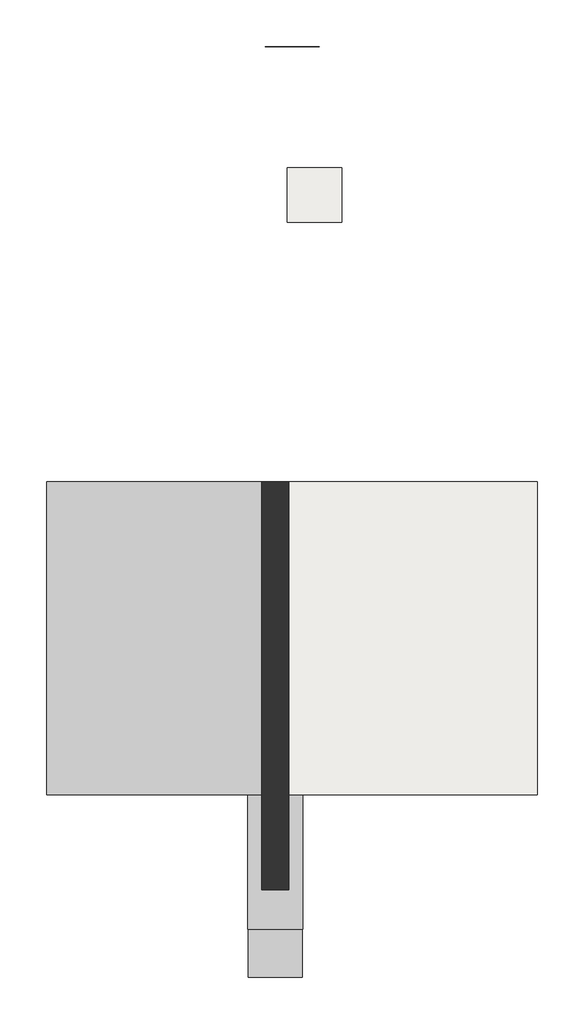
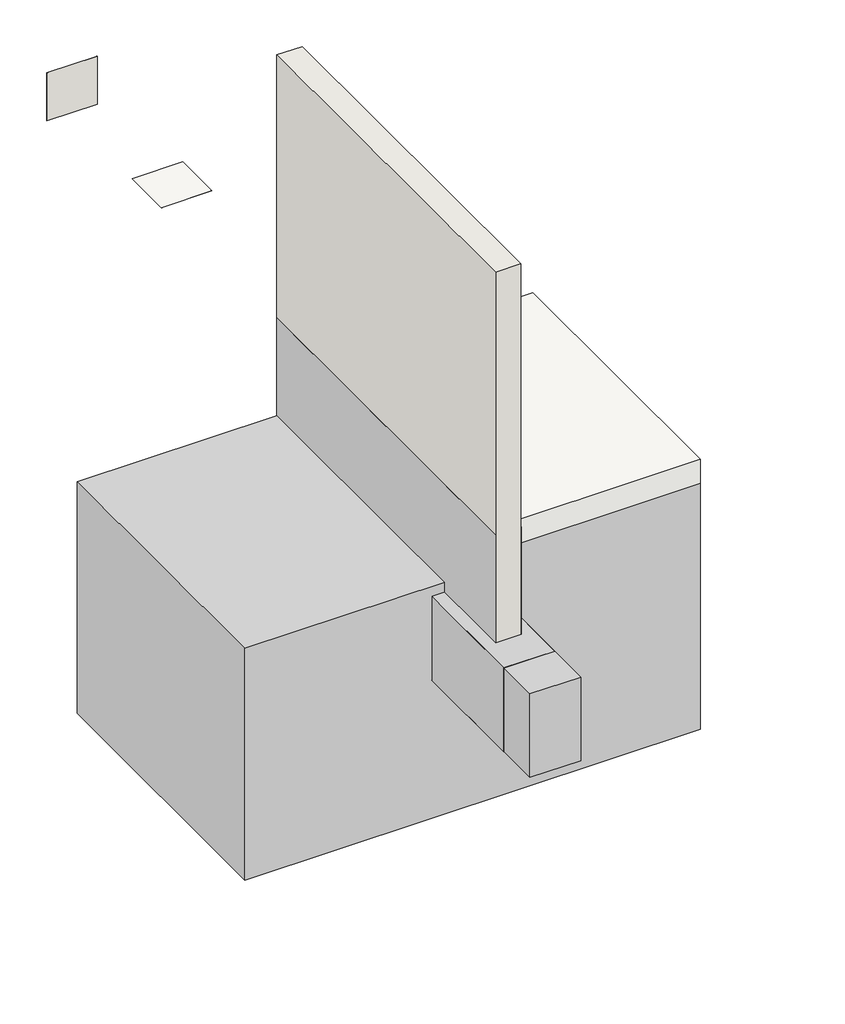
# One storey: 2 slabs, 2 walls, 1 proxy.
"""IFC4 building model written with IfcOpenShell, lengths in millimetres."""

import ifcopenshell
import ifcopenshell.guid

model = None  # the IFC model being written
_history = None  # IfcOwnerHistory: only IFC2X3 demands one
_inside = {}  # id of a spatial element -> (the spatial element, [elements in it])
_under = {}  # id of a project, library or spatial element -> (it, [spatial elements below it])
_declared = {}  # id of a project -> (the project, [libraries it declares])
_typed = {}  # id of a type object -> (the type object, [elements of that type])
_made_of = {}  # id of a material, layer set ... -> (it, [elements and type objects made of it])


def new_model(schema):
    """Start an empty IFC model of exactly this schema.

    Asked for "IFC4X3", IfcOpenShell would pick the latest addendum, in which some entities
    have other attributes; the version numbers below select the first issue.
    IFC2X3 requires an IfcOwnerHistory on every rooted entity: one is made here for all.
    """
    global model, _history
    if schema == "IFC4X3":
        model = ifcopenshell.file(schema_version=(4, 3, 0, 0))
    else:
        model = ifcopenshell.file(schema=schema)
    _inside.clear()
    _under.clear()
    _declared.clear()
    _typed.clear()
    _made_of.clear()
    _history = None
    if model.schema == "IFC2X3":
        org = make("IfcOrganization", Name="unknown")
        user = make(
            "IfcPersonAndOrganization",
            ThePerson=make("IfcPerson", FamilyName="unknown"),
            TheOrganization=org,
        )
        app = make(
            "IfcApplication",
            ApplicationDeveloper=org,
            Version="unknown",
            ApplicationFullName="unknown",
            ApplicationIdentifier="unknown",
        )
        _history = make(
            "IfcOwnerHistory",
            OwningUser=user,
            OwningApplication=app,
            ChangeAction="ADDED",
            CreationDate=0,
        )
    return model


def make(cls, **values):
    """One entity of the class cls with the attributes given. An attribute that is None is left unset."""
    return model.create_entity(
        cls, **{name: value for name, value in values.items() if value is not None}
    )


def rooted(cls, **values):
    """An entity with a GlobalId (a new one), such as an element, a storey or a relation."""
    return make(cls, GlobalId=ifcopenshell.guid.new(), OwnerHistory=_history, **values)


def si_unit(unit_type, name, prefix=None):
    """IfcSIUnit, for example si_unit("LENGTHUNIT", "METRE", prefix="MILLI")."""
    return make("IfcSIUnit", UnitType=unit_type, Prefix=prefix, Name=name)


def assignment(units):
    """IfcUnitAssignment: the units of a project."""
    return None if units is None else make("IfcUnitAssignment", Units=units)


def point(xyz):
    """IfcCartesianPoint."""
    return None if xyz is None else make("IfcCartesianPoint", Coordinates=xyz)


def direction(xyz):
    """IfcDirection."""
    return None if xyz is None else make("IfcDirection", DirectionRatios=xyz)


def frame(location, z_axis=None, x_axis=None):
    """IfcAxis2Placement3D, a coordinate frame: its origin and axes. An axis left out is left unset."""
    return make(
        "IfcAxis2Placement3D",
        Location=point(location),
        Axis=direction(z_axis),
        RefDirection=direction(x_axis),
    )


def origin():
    """The frame at (0, 0, 0) with its axes left unset."""
    return frame((0.0, 0.0, 0.0))


def place(relative_to, where):
    """IfcLocalPlacement: puts the frame where relative to a parent placement (None: the world)."""
    return make(
        "IfcLocalPlacement", PlacementRelTo=relative_to, RelativePlacement=where
    )


def context(
    kind, dimensions, precision=None, world=None, true_north=None, identifier=None
):
    """IfcGeometricRepresentationContext, for example the 3D "Model" context."""
    return make(
        "IfcGeometricRepresentationContext",
        ContextIdentifier=identifier,
        ContextType=kind,
        CoordinateSpaceDimension=dimensions,
        Precision=precision,
        WorldCoordinateSystem=world,
        TrueNorth=true_north,
    )


def project(units=None, contexts=None):
    """IfcProject with its units and contexts."""
    return rooted(
        "IfcProject",
        Name="project",
        RepresentationContexts=contexts,
        UnitsInContext=assignment(units),
    )


def spatial(cls, under=None, at=None, **own):
    """A site, building, storey or space (cls), placed at a placement, below another one or the project."""
    s = rooted(cls, ObjectPlacement=at, **own)
    if under is not None:
        _under.setdefault(under.id(), (under, []))[1].append(s)
    return s


def polyline(points):
    """IfcPolyline through the points."""
    return make("IfcPolyline", Points=[point(p) for p in points])


def outline(outer, holes=None, kind="AREA"):
    """IfcArbitraryClosedProfileDef: a profile drawn as a closed curve; with holes, ...WithVoids."""
    if holes is None:
        return make("IfcArbitraryClosedProfileDef", ProfileType=kind, OuterCurve=outer)
    return make(
        "IfcArbitraryProfileDefWithVoids",
        ProfileType=kind,
        OuterCurve=outer,
        InnerCurves=holes,
    )


def extrude(swept, where, along, depth):
    """IfcExtrudedAreaSolid: the profile swept, set in the frame where, extruded along a direction by depth."""
    return make(
        "IfcExtrudedAreaSolid",
        SweptArea=swept,
        Position=where,
        ExtrudedDirection=direction(along),
        Depth=depth,
    )


def shape(context_of_items, identifier, shape_type, items):
    """IfcShapeRepresentation: the items that make up one representation, for example the "Body"."""
    return make(
        "IfcShapeRepresentation",
        ContextOfItems=context_of_items,
        RepresentationIdentifier=identifier,
        RepresentationType=shape_type,
        Items=items,
    )


def source(mapping_origin, context_of_items, identifier, shape_type, items):
    """IfcRepresentationMap: a shape defined once, which mapped items show again and again."""
    return make(
        "IfcRepresentationMap",
        MappingOrigin=mapping_origin,
        MappedRepresentation=shape(context_of_items, identifier, shape_type, items),
    )


def transform(
    local_origin,
    x_axis=None,
    y_axis=None,
    z_axis=None,
    scale=None,
    scale2=None,
    scale3=None,
    uniform=True,
):
    """IfcCartesianTransformationOperator3D, or its non-uniform kind. x_axis, y_axis, z_axis: its Axis1, 2, 3."""
    if uniform:
        return make(
            "IfcCartesianTransformationOperator3D",
            Axis1=direction(x_axis),
            Axis2=direction(y_axis),
            LocalOrigin=point(local_origin),
            Scale=scale,
            Axis3=direction(z_axis),
        )
    return make(
        "IfcCartesianTransformationOperator3DnonUniform",
        Axis1=direction(x_axis),
        Axis2=direction(y_axis),
        LocalOrigin=point(local_origin),
        Scale=scale,
        Axis3=direction(z_axis),
        Scale2=scale2,
        Scale3=scale3,
    )


def mapped(mapping_source, mapping_target):
    """IfcMappedItem: shows the shape of a source again, moved by a transform."""
    return make(
        "IfcMappedItem", MappingSource=mapping_source, MappingTarget=mapping_target
    )


def made_of(thing, what):
    """Note that an element or type object is made of a material, layer set ...; save() writes the relation."""
    if what is not None:
        _made_of.setdefault(what.id(), (what, []))[1].append(thing)
    return thing


def element(
    cls,
    number,
    at=None,
    inside=None,
    cuts=None,
    type_object=None,
    material=None,
    context=None,
    identifier="Body",
    shape_type=None,
    held_by="IfcProductDefinitionShape",
    body=None,
    shapes=None,
    **own,
):
    """One element of the class cls, such as IfcWall. Its Tag is "e" and its number.

    at: its placement. inside: the storey or other place that contains it. cuts: it is an
    opening in that element (IfcRelVoidsElement). A single representation is given by context,
    identifier, shape_type and body (its items); several are given by shapes. held_by: the class
    of the entity that holds the representations. save() writes the other relations.
    """
    e = rooted(cls, Tag="e%d" % number, ObjectPlacement=at, **own)
    if body is not None:
        shapes = [shape(context, identifier, shape_type, body)]
    if shapes is not None:
        e.Representation = make(held_by, Representations=shapes)
    if inside is not None:
        _inside.setdefault(inside.id(), (inside, []))[1].append(e)
    if cuts is not None:
        rooted(
            "IfcRelVoidsElement", RelatingBuildingElement=cuts, RelatedOpeningElement=e
        )
    if type_object is not None:
        _typed.setdefault(type_object.id(), (type_object, []))[1].append(e)
    return made_of(e, material)


def aggregate(whole, parts):
    """IfcRelAggregates: a whole, such as a stair, and the parts it consists of."""
    return rooted("IfcRelAggregates", RelatingObject=whole, RelatedObjects=parts)


def save(model, path):
    """Write the relations noted so far, then the file.

    IfcRelAggregates (storeys below a building ...), IfcRelContainedInSpatialStructure (elements
    in a storey), IfcRelDefinesByType, IfcRelAssociatesMaterial and IfcRelDeclares: one each for
    every whole, place, type object, material and project.
    """
    for whole, parts in _under.values():
        aggregate(whole, parts)
    for where, things in _inside.values():
        rooted(
            "IfcRelContainedInSpatialStructure",
            RelatedElements=things,
            RelatingStructure=where,
        )
    for kind, things in _typed.values():
        rooted("IfcRelDefinesByType", RelatedObjects=things, RelatingType=kind)
    for what, things in _made_of.values():
        rooted("IfcRelAssociatesMaterial", RelatedObjects=things, RelatingMaterial=what)
    for by, libraries in _declared.values():
        rooted("IfcRelDeclares", RelatingContext=by, RelatedDefinitions=libraries)
    model.write(path)


def generic_models_f47f14e8(model_context):
    return source(origin(), model_context, "Body", "SweptSolid", [
        extrude(outline(polyline([(-326.9704105, 145.8700195), (-325.9704105, 145.8700195), (-325.9704105, -2854.1299805), (-326.9704105, -2854.1299805), (-326.9704105, 145.8700195)])), frame((0.0, 0.0, -603.3780272), z_axis=(0.0, 0.0, 1.0), x_axis=(1.0, 0.0, 0.0)), (0.0, 0.0, 1.0), 900.8542292),
        extrude(outline(polyline([(-527.9704105, 145.8700195), (-526.9704105, 145.8700195), (-526.9704105, -2854.1299805), (-527.9704105, -2854.1299805), (-527.9704105, 145.8700195)])), frame((0.0, 0.0, -603.3780272), z_axis=(0.0, 0.0, 1.0), x_axis=(1.0, 0.0, 0.0)), (0.0, 0.0, 1.0), 900.8542292),
        extrude(outline(polyline([(-603.3780272, -627.9704105), (-1305.3780272, -627.9704105), (-1305.3780272, -225.9704105), (-603.3780272, -225.9704105), (-603.3780272, -627.9704105)]), holes=[polyline([(-604.3780272, -626.9704105), (-604.3780272, -226.9704105), (-1304.3780272, -226.9704105), (-1304.3780272, -626.9704105), (-604.3780272, -626.9704105)])]), frame((0.0, -3142.3995487, 0.0), z_axis=(0.0, 1.0, 0.0), x_axis=(0.0, 0.0, 1.0)), (0.0, 0.0, 1.0), 3038.2695682),
        extrude(outline(polyline([(-604.3780272, -326.9704105), (-604.3780272, -226.9704105), (-1304.3780272, -226.9704105), (-1304.3780272, -626.9704105), (-604.3780272, -626.9704105), (-604.3780272, -526.9704105), (-520.527667, -526.9704105), (-520.527667, -2108.6071009), (-2459.4927087, -2108.6071009), (-2459.4927087, 1498.0295895), (-402.523798, 1498.0295895), (-402.523798, -326.9704105), (-604.3780272, -326.9704105)])), frame((0.0, -2154.1299805, 0.0), z_axis=(0.0, 1.0, 0.0), x_axis=(0.0, 0.0, 1.0)), (0.0, 0.0, 1.0), 2300.0),
        extrude(outline(polyline([(-626.9704105, 145.8700195), (-226.9704105, 145.8700195), (-226.9704105, -3498.0442835), (-626.9704105, -3498.0442835), (-626.9704105, 145.8700195)])), frame((0.0, 0.0, -1304.3780272), z_axis=(0.0, 0.0, 1.0), x_axis=(1.0, 0.0, 0.0)), (0.0, 0.0, 1.0), 700.0),
    ])


model = new_model("IFC4")

# Units and contexts
model_context = context("Model", 3, world=origin())
ifc_project = project(units=[si_unit("LENGTHUNIT", "METRE", prefix="MILLI")], contexts=[model_context])

# Site, building, storey
site = spatial("IfcSite", under=ifc_project)
building = spatial("IfcBuilding", under=site)
storey = spatial("IfcBuildingStorey", under=building, Name="ARQ Térreo", Elevation=-2.523798)

# Proxy
placement = place(None, origin())
generic_models_shape = generic_models_f47f14e8(model_context)
element("IfcBuildingElementProxy", 1, Name="IMPER:IMPER:433934 : IMPER:IMPER:433934", ObjectType="IMPER:IMPER:433934 : IMPER:IMPER:433934", at=placement, inside=storey, context=model_context, shape_type="MappedRepresentation", body=[
    mapped(generic_models_shape, transform((0.0, 0.0, 0.0), x_axis=(1.0, 0.0, 0.0), y_axis=(0.0, 1.0, 0.0), z_axis=(0.0, 0.0, 1.0))),
])

# Slabs
element("IfcSlab", 2, ObjectType="IMPH_VIABIT", at=placement, inside=storey, context=model_context, shape_type="SweptSolid", body=[
    extrude(outline(polyline([(-339.4717852, 2454.1249925), (60.5282148, 2454.1249925), (60.5282148, 2054.1249925), (-339.4717852, 2054.1249925), (-339.4717852, 2454.1249925)])), frame((0.0, 0.0, -3.523798), z_axis=(0.0, 0.0, 1.0), x_axis=(1.0, 0.0, 0.0)), (0.0, 0.0, 1.0), 1.0),
])
element("IfcSlab", 3, ObjectType="Piso:LAJE CONCRETO", at=placement, inside=storey, context=model_context, shape_type="SweptSolid", body=[
    extrude(outline(polyline([(-501.9704105, 145.8700195), (1498.0295895, 145.8700195), (1498.0295895, -2154.1299805), (-501.9704105, -2154.1299805), (-501.9704105, 145.8700195)])), frame((0.0, 0.0, -402.523798), z_axis=(0.0, 0.0, 1.0), x_axis=(1.0, 0.0, 0.0)), (0.0, 0.0, 1.0), 200.0),
])

# Walls
element("IfcWall", 4, ObjectType="IMPV_VIABIT", at=placement, inside=storey, context=model_context, shape_type="SweptSolid", body=[
    extrude(outline(polyline([(-101.9704105, 3345.3700195), (-501.9704105, 3345.3700195), (-501.9704105, 3346.3700195), (-101.9704105, 3346.3700195), (-101.9704105, 3345.3700195)])), frame((0.0, 0.0, -2.523798), z_axis=(0.0, 0.0, 1.0), x_axis=(1.0, 0.0, 0.0)), (0.0, 0.0, 1.0), 400.0),
])
element("IfcWall", 5, ObjectType="Alvenaria - 200 mm", at=placement, inside=storey, context=model_context, shape_type="SweptSolid", body=[
    extrude(outline(polyline([(-526.9704105, -2854.1299805), (-526.9704105, 145.8700195), (-326.9704105, 145.8700195), (-326.9704105, -2854.1299805), (-526.9704105, -2854.1299805)])), frame((0.0, 0.0, -604.3780272), z_axis=(0.0, 0.0, 1.0), x_axis=(1.0, 0.0, 0.0)), (0.0, 0.0, 1.0), 3101.8542292),
])

save(model, "model.ifc")
